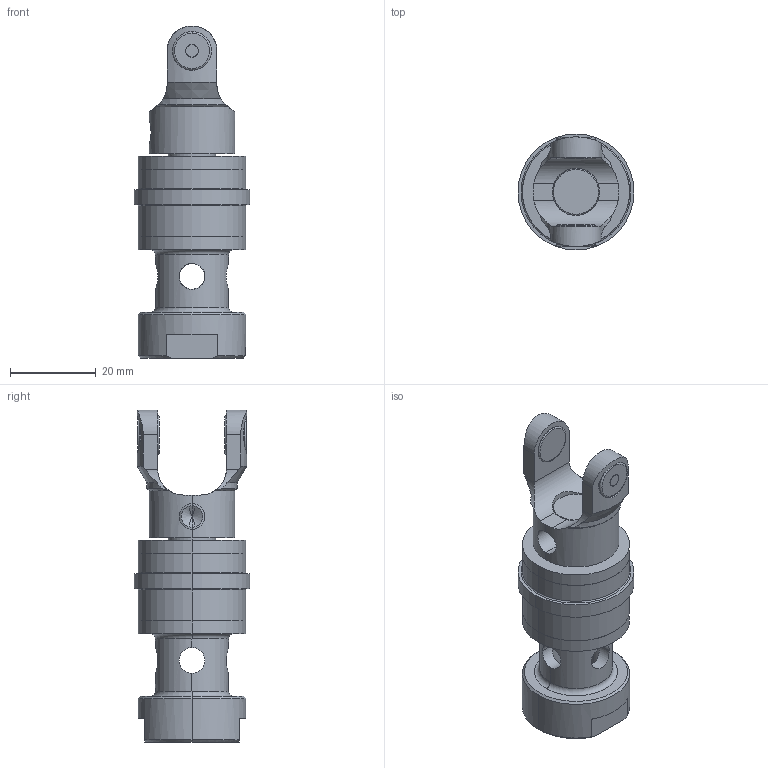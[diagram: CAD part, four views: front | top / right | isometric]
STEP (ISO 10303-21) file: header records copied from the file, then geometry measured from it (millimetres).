
FILE_DESCRIPTION (( 'STEP AP214' ), '1' );
FILE_NAME ('IRB360_X-1130-WDS-4D_rev03_FACEPLATE_CAD.STEP', '2023-12-04T09:55:22', ( '' ), ( '' ), 'SwSTEP 2.0', 'SolidWorks 2022', '' );
FILE_SCHEMA (( 'AUTOMOTIVE_DESIGN' ));
Length unit declared in the file: millimetre
Products named in the file (1): IRB360_X-1130-WDS-4D_rev03_FACEPLATE_CAD
Bounding box: 27 x 27 x 77.3 mm (x, y, z)
Volume: 18592.5 mm3; surface area: 10522.4 mm2
Topology: 4 solids, 4 shells, 157 faces, 392 edges, 236 vertices
Faces by surface type: cylinder 73, plane 32, cone 28, torus 24
Entity records: 5818 total; most frequent: CARTESIAN_POINT 2020, DIRECTION 779, ORIENTED_EDGE 756, EDGE_CURVE 378, AXIS2_PLACEMENT_3D 325, VERTEX_POINT 236, EDGE_LOOP 182, CIRCLE 167
